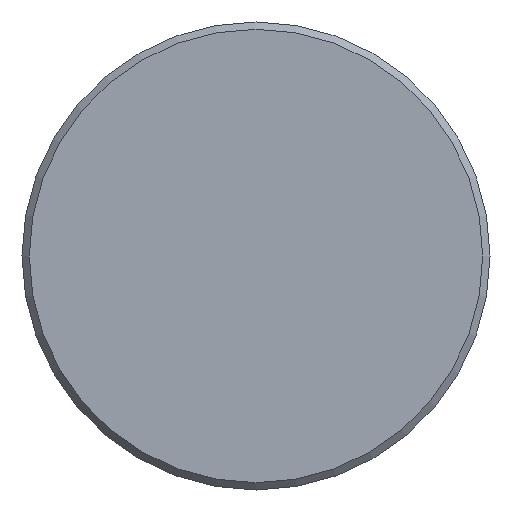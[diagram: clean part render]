
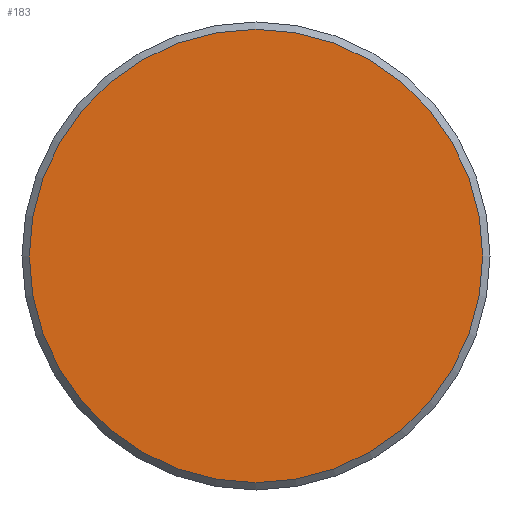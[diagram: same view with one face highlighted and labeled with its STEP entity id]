
A CAD part, front view. The second image highlights one B-rep face of the part: STEP entity #183.
In plain terms, the highlighted planar face has unit normal (0, -1, 0).
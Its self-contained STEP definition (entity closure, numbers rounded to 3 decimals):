
#183 = ADVANCED_FACE( '', ( #357 ), #358, .F. );
#357 = FACE_OUTER_BOUND( '', #539, .T. );
#358 = PLANE( '', #540 );
#539 = EDGE_LOOP( '', ( #812 ) );
#540 = AXIS2_PLACEMENT_3D( '', #813, #814, #815 );
#812 = ORIENTED_EDGE( '', *, *, #1095, .T. );
#813 = CARTESIAN_POINT( '', ( 15.5, 0., 0. ) );
#814 = DIRECTION( '', ( 0., 1., 0. ) );
#815 = DIRECTION( '', ( 0., 0., 1. ) );
#1095 = EDGE_CURVE( '', #1281, #1281, #1282, .T. );
#1281 = VERTEX_POINT( '', #1679 );
#1282 = CIRCLE( '', #1680, 15.5 );
#1679 = CARTESIAN_POINT( '', ( 0., 0., -15.5 ) );
#1680 = AXIS2_PLACEMENT_3D( '', #1900, #1901, #1902 );
#1900 = CARTESIAN_POINT( '', ( 0., 0., 0. ) );
#1901 = DIRECTION( '', ( 0., -1., 0. ) );
#1902 = DIRECTION( '', ( 0., 0., -1. ) );
